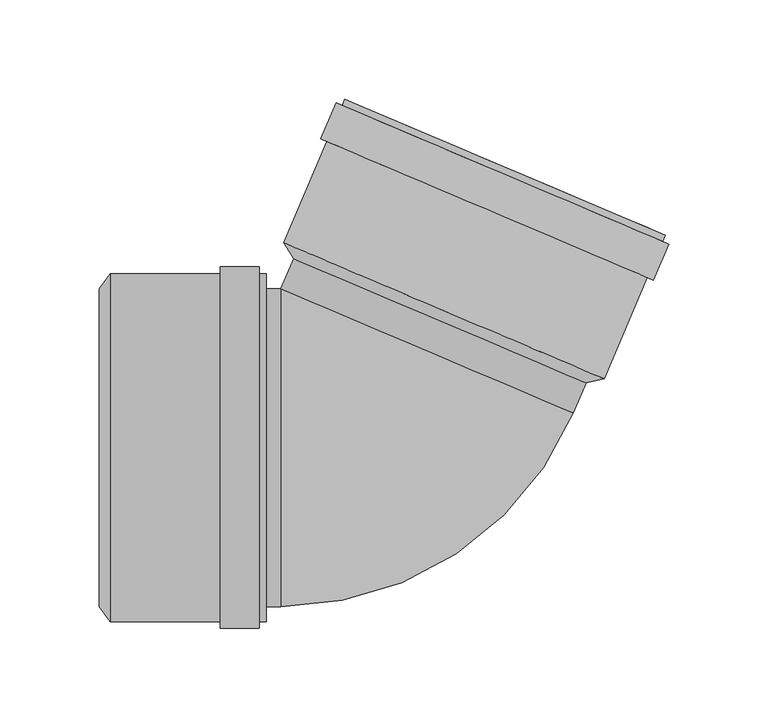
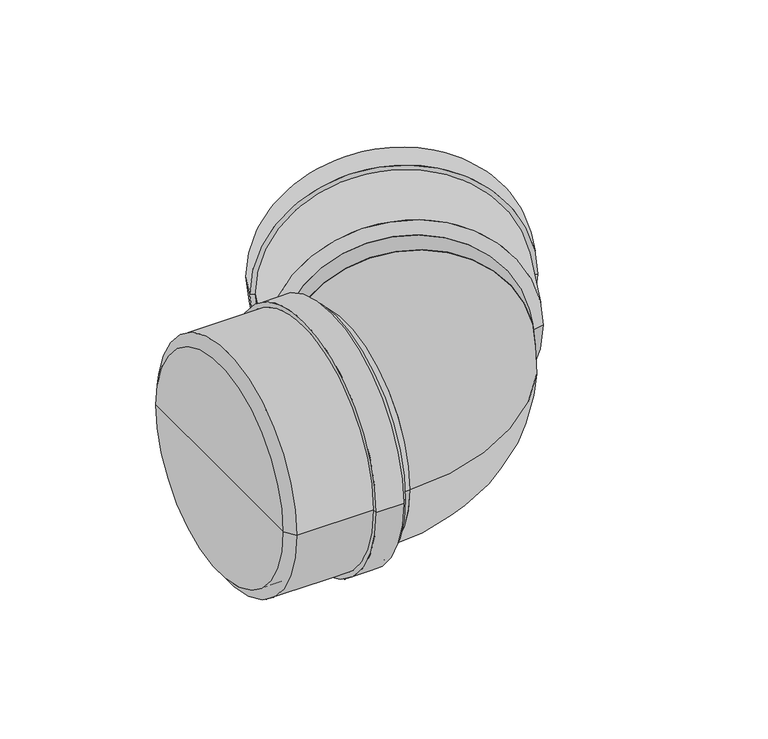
"""IFC4 building model written with IfcOpenShell, lengths in millimetres: pipe fitting geometry, pf_KGB : pf_KGB."""

from ifc_helpers import new_model, si_unit, point, frame, origin, origin_2d, place, context, project, spatial, polyline, circle_curve, ellipse_curve, trimmed, segment, composite_curve, outline, extrude, source, transform, mapped, element, save
from ifc_brep_helpers import plane_surface, cylinder_surface, revolved_surface, advanced_brep


def pipe_fitting_2241b52f(model_context):
    return source(origin(), model_context, "Body", "SolidModel", [
        advanced_brep(
        [(100.7571286, 32.6245466, 0.0), (-46.523648, 95.1415271, 0.0), (-51.4095368, 103.0818099, 0.0), (109.8629136, 34.6257162, 0.0), (27.1167403, 63.8830368, 0.0), (140.5743803, 106.9773977, 0.0), (-20.6980701, 175.4334914, 0.0), (-13.7022332, 172.4639348, 0.0), (133.5785434, 109.9469542, 0.0), (-22.0265559, 172.3037749, 0.0), (139.2458944, 103.8476812, 0.0), (-25.1562724, 173.6322607, 0.0), (142.3756109, 102.5191953, 0.0), (-32.8536756, 155.4983151, 0.0), (134.6782077, 84.3852497, 0.0), (-29.7239591, 154.1698293, 0.0), (131.5484912, 85.7137355, 0.0), (102.8670767, 37.5952728, 0.0), (-44.4136999, 100.1122533, 0.0), (29.2266884, 68.853763, 0.0)],
        [
            (0, 1, circle_curve(frame((27.1167403, 63.8830368, 0.0), z_axis=(0.39073112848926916, 0.9205048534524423, 0.0), x_axis=(-0.9205048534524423, 0.39073112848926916, 0.0)), 80.0)),
            (1, 2),
            (2, 3, circle_curve(frame((29.2266884, 68.853763, 0.0), z_axis=(-0.39073112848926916, -0.9205048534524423, 0.0), x_axis=(-0.9205048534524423, 0.39073112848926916, 0.0)), 87.6)),
            (3, 0),
            (1, 0, circle_curve(frame((27.1167403, 63.8830368, 0.0), z_axis=(0.39073112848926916, 0.9205048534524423, 0.0), x_axis=(-0.9205048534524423, 0.39073112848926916, 0.0)), 80.0)),
            (3, 2, circle_curve(frame((29.2266884, 68.853763, 0.0), z_axis=(-0.39073112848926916, -0.9205048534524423, 0.0), x_axis=(-0.9205048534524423, 0.39073112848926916, 0.0)), 87.6)),
            (4, 1),
            (0, 4),
            (5, 6, circle_curve(frame((59.9381551, 141.2054445, 0.0), z_axis=(0.39073112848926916, 0.9205048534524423, 0.0), x_axis=(-0.9205048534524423, 0.39073112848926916, 0.0)), 87.6)),
            (6, 7),
            (7, 8, circle_curve(frame((59.9381551, 141.2054445, 0.0), z_axis=(-0.39073112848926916, -0.9205048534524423, 0.0), x_axis=(-0.9205048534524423, 0.39073112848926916, 0.0)), 80.0)),
            (8, 5),
            (9, 10, circle_curve(frame((58.6096693, 138.075728, 0.0), z_axis=(0.39073112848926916, 0.9205048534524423, 0.0), x_axis=(-0.9205048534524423, 0.39073112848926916, 0.0)), 87.6)),
            (10, 5),
            (5, 6, circle_curve(frame((59.9381551, 141.2054445, 0.0), z_axis=(-0.39073112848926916, -0.9205048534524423, 0.0), x_axis=(-0.9205048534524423, 0.39073112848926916, 0.0)), 87.6)),
            (6, 9),
            (11, 12, circle_curve(frame((58.6096693, 138.075728, 0.0), z_axis=(0.39073112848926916, 0.9205048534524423, 0.0), x_axis=(-0.9205048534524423, 0.39073112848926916, 0.0)), 91.0)),
            (12, 10),
            (9, 11),
            (13, 14, circle_curve(frame((50.912266, 119.9417824, 0.0), z_axis=(0.39073112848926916, 0.9205048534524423, 0.0), x_axis=(-0.9205048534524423, 0.39073112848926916, 0.0)), 91.0)),
            (14, 12),
            (11, 13),
            (15, 16, circle_curve(frame((50.912266, 119.9417824, 0.0), z_axis=(0.39073112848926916, 0.9205048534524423, 0.0), x_axis=(-0.9205048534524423, 0.39073112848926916, 0.0)), 87.6)),
            (16, 14),
            (13, 15),
            (8, 7, circle_curve(frame((59.9381551, 141.2054445, 0.0), z_axis=(-0.39073112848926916, -0.9205048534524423, 0.0), x_axis=(-0.9205048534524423, 0.39073112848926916, 0.0)), 80.0)),
            (10, 9, circle_curve(frame((58.6096693, 138.075728, 0.0), z_axis=(0.39073112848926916, 0.9205048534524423, 0.0), x_axis=(-0.9205048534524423, 0.39073112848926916, 0.0)), 87.6)),
            (12, 11, circle_curve(frame((58.6096693, 138.075728, 0.0), z_axis=(0.39073112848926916, 0.9205048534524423, 0.0), x_axis=(-0.9205048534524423, 0.39073112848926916, 0.0)), 91.0)),
            (14, 13, circle_curve(frame((50.912266, 119.9417824, 0.0), z_axis=(0.39073112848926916, 0.9205048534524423, 0.0), x_axis=(-0.9205048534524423, 0.39073112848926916, 0.0)), 91.0)),
            (16, 15, circle_curve(frame((50.912266, 119.9417824, 0.0), z_axis=(0.39073112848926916, 0.9205048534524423, 0.0), x_axis=(-0.9205048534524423, 0.39073112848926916, 0.0)), 87.6)),
            (2, 15),
            (16, 3),
            (17, 18, circle_curve(frame((29.2266884, 68.853763, 0.0), z_axis=(0.39073112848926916, 0.9205048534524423, 0.0), x_axis=(-0.9205048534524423, 0.39073112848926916, 0.0)), 80.0)),
            (18, 19),
            (19, 17),
            (18, 17, circle_curve(frame((29.2266884, 68.853763, 0.0), z_axis=(0.39073112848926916, 0.9205048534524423, 0.0), x_axis=(-0.9205048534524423, 0.39073112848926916, 0.0)), 80.0)),
            (7, 18),
            (17, 8),
        ],
        [
            revolved_surface(polyline([(-51.4095368, 103.0818099, 0.0), (-46.523648, 95.1415271, 0.0)]), (27.1167403, 63.8830368, 0.0), (-0.39073112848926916, -0.9205048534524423, 0.0)),
            plane_surface(frame((27.1167403, 63.8830368, 0.0), z_axis=(-0.39073112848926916, -0.9205048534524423, 0.0), x_axis=(-0.9205048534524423, 0.39073112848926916, 0.0))),
            plane_surface(frame((59.9381551, 141.2054445, 0.0), z_axis=(0.39073112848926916, 0.9205048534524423, 0.0), x_axis=(-0.9205048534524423, 0.39073112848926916, 0.0))),
            cylinder_surface(frame((27.1167403, 63.8830368, 0.0), z_axis=(-0.39073112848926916, -0.9205048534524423, 0.0), x_axis=(-0.9205048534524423, 0.39073112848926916, 0.0)), 87.6),
            plane_surface(frame((58.6096693, 138.075728, 0.0), z_axis=(0.39073112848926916, 0.9205048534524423, 0.0), x_axis=(-0.9205048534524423, 0.39073112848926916, 0.0))),
            cylinder_surface(frame((27.1167403, 63.8830368, 0.0), z_axis=(-0.39073112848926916, -0.9205048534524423, 0.0), x_axis=(-0.9205048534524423, 0.39073112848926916, 0.0)), 91.0),
            plane_surface(frame((50.912266, 119.9417824, 0.0), z_axis=(-0.39073112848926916, -0.9205048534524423, 0.0), x_axis=(-0.9205048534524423, 0.39073112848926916, 0.0))),
            plane_surface(frame((29.2266884, 68.853763, 0.0), z_axis=(0.39073112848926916, 0.9205048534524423, 0.0), x_axis=(-0.9205048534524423, 0.39073112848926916, 0.0))),
            revolved_surface(polyline([(-44.413699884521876, 100.11225328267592, 0.0), (-13.702233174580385, 172.46393478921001, 0.0)]), (27.1167403, 63.8830368, 0.0), (-0.39073112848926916, -0.9205048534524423, 0.0)),
        ],
        [
            (0, [[1, 2, 3, 4]]),
            (0, [[5, -4, 6, -2]]),
            (1, [[7, -1, 8]]),
            (1, [[-8, -5, -7]]),
            (2, [[9, 10, 11, 12]]),
            (3, [[13, 14, 15, 16]]),
            (4, [[17, 18, -13, 19]]),
            (5, [[20, 21, -17, 22]]),
            (6, [[23, 24, -20, 25]]),
            (2, [[-15, -12, 26, -10]]),
            (3, [[27, -16, -9, -14]]),
            (4, [[28, -19, -27, -18]]),
            (5, [[29, -22, -28, -21]]),
            (6, [[30, -25, -29, -24]]),
            (3, [[-3, 31, -30, 32]]),
            (3, [[-6, -32, -23, -31]]),
            (7, [[33, 34, 35]]),
            (7, [[36, -35, -34]]),
            (8, [[-11, 37, -33, 38]]),
            (8, [[-26, -38, -36, -37]]),
        ],
    ),
        advanced_brep(
        [(-144.4, -80.0, 0.0), (-144.4, 80.0, 0.0), (-139.0, 87.6, 0.0), (-139.0, -87.6, 0.0), (-144.4, 0.0, 0.0), (-60.4, -87.6, 0.0), (-60.4, 87.6, 0.0), (-60.4, 80.0, 0.0), (-60.4, -80.0, 0.0), (-63.8, 87.6, 0.0), (-63.8, -87.6, 0.0), (-63.8, 91.0, 0.0), (-63.8, -91.0, 0.0), (-83.5, 91.0, 0.0), (-83.5, -91.0, 0.0), (-83.5, 87.6, 0.0), (-83.5, -87.6, 0.0), (-139.0, -80.0, 0.0), (-139.0, 80.0, 0.0), (-139.0, 0.0, 0.0)],
        [
            (0, 1, circle_curve(frame((-144.4, 0.0, 0.0), z_axis=(1.0, 0.0, 0.0), x_axis=(0.0, 1.0, 0.0)), 80.0)),
            (1, 2),
            (2, 3, circle_curve(frame((-139.0, 0.0, 0.0), z_axis=(-1.0, 0.0, 0.0), x_axis=(0.0, 1.0, 0.0)), 87.6)),
            (3, 0),
            (1, 0, circle_curve(frame((-144.4, 0.0, 0.0), z_axis=(1.0, 0.0, 0.0), x_axis=(0.0, 1.0, 0.0)), 80.0)),
            (3, 2, circle_curve(frame((-139.0, 0.0, 0.0), z_axis=(-1.0, 0.0, 0.0), x_axis=(0.0, 1.0, 0.0)), 87.6)),
            (4, 1),
            (0, 4),
            (5, 6, circle_curve(frame((-60.4, 0.0, 0.0), z_axis=(1.0, 0.0, 0.0), x_axis=(0.0, 1.0, 0.0)), 87.6)),
            (6, 7),
            (7, 8, circle_curve(frame((-60.4, 0.0, 0.0), z_axis=(-1.0, 0.0, 0.0), x_axis=(0.0, 1.0, 0.0)), 80.0)),
            (8, 5),
            (9, 10, circle_curve(frame((-63.8, 0.0, 0.0), z_axis=(1.0, 0.0, 0.0), x_axis=(0.0, 1.0, 0.0)), 87.6)),
            (10, 5),
            (5, 6, circle_curve(frame((-60.4, 0.0, 0.0), z_axis=(-1.0, 0.0, 0.0), x_axis=(0.0, 1.0, 0.0)), 87.6)),
            (6, 9),
            (11, 12, circle_curve(frame((-63.8, 0.0, 0.0), z_axis=(1.0, 0.0, 0.0), x_axis=(0.0, 1.0, 0.0)), 91.0)),
            (12, 10),
            (9, 11),
            (13, 14, circle_curve(frame((-83.5, 0.0, 0.0), z_axis=(1.0, 0.0, 0.0), x_axis=(0.0, 1.0, 0.0)), 91.0)),
            (14, 12),
            (11, 13),
            (15, 16, circle_curve(frame((-83.5, 0.0, 0.0), z_axis=(1.0, 0.0, 0.0), x_axis=(0.0, 1.0, 0.0)), 87.6)),
            (16, 14),
            (13, 15),
            (8, 7, circle_curve(frame((-60.4, 0.0, 0.0), z_axis=(-1.0, 0.0, 0.0), x_axis=(0.0, 1.0, 0.0)), 80.0)),
            (10, 9, circle_curve(frame((-63.8, 0.0, 0.0), z_axis=(1.0, 0.0, 0.0), x_axis=(0.0, 1.0, 0.0)), 87.6)),
            (12, 11, circle_curve(frame((-63.8, 0.0, 0.0), z_axis=(1.0, 0.0, 0.0), x_axis=(0.0, 1.0, 0.0)), 91.0)),
            (14, 13, circle_curve(frame((-83.5, 0.0, 0.0), z_axis=(1.0, 0.0, 0.0), x_axis=(0.0, 1.0, 0.0)), 91.0)),
            (16, 15, circle_curve(frame((-83.5, 0.0, 0.0), z_axis=(1.0, 0.0, 0.0), x_axis=(0.0, 1.0, 0.0)), 87.6)),
            (2, 15),
            (16, 3),
            (17, 18, circle_curve(frame((-139.0, 0.0, 0.0), z_axis=(1.0, 0.0, 0.0), x_axis=(0.0, 1.0, 0.0)), 80.0)),
            (18, 19),
            (19, 17),
            (18, 17, circle_curve(frame((-139.0, 0.0, 0.0), z_axis=(1.0, 0.0, 0.0), x_axis=(0.0, 1.0, 0.0)), 80.0)),
            (7, 18),
            (17, 8),
        ],
        [
            revolved_surface(polyline([(-139.0, 87.6, 0.0), (-144.4, 80.0, 0.0)]), (-144.4, 0.0, 0.0), (-1.0, 0.0, 0.0)),
            plane_surface(frame((-144.4, 0.0, 0.0), z_axis=(-1.0, 0.0, 0.0), x_axis=(0.0, 1.0, 0.0))),
            plane_surface(frame((-60.4, 0.0, 0.0), z_axis=(1.0, 0.0, 0.0), x_axis=(0.0, 1.0, 0.0))),
            cylinder_surface(frame((-144.4, 0.0, 0.0), z_axis=(-1.0, 0.0, 0.0), x_axis=(0.0, 1.0, 0.0)), 87.6),
            plane_surface(frame((-63.8, 0.0, 0.0), z_axis=(1.0, 0.0, 0.0), x_axis=(0.0, 1.0, 0.0))),
            cylinder_surface(frame((-144.4, 0.0, 0.0), z_axis=(-1.0, 0.0, 0.0), x_axis=(0.0, 1.0, 0.0)), 91.0),
            plane_surface(frame((-83.5, 0.0, 0.0), z_axis=(-1.0, 0.0, 0.0), x_axis=(0.0, 1.0, 0.0))),
            plane_surface(frame((-139.0, 0.0, 0.0), z_axis=(1.0, 0.0, 0.0), x_axis=(0.0, 1.0, 0.0))),
            revolved_surface(polyline([(-139.0, 80.0, 0.0), (-60.400000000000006, 80.0, 0.0)]), (-144.4, 0.0, 0.0), (-1.0, 0.0, 0.0)),
        ],
        [
            (0, [[1, 2, 3, 4]]),
            (0, [[5, -4, 6, -2]]),
            (1, [[7, -1, 8]]),
            (1, [[-8, -5, -7]]),
            (2, [[9, 10, 11, 12]]),
            (3, [[13, 14, 15, 16]]),
            (4, [[17, 18, -13, 19]]),
            (5, [[20, 21, -17, 22]]),
            (6, [[23, 24, -20, 25]]),
            (2, [[-15, -12, 26, -10]]),
            (3, [[27, -16, -9, -14]]),
            (4, [[28, -19, -27, -18]]),
            (5, [[29, -22, -28, -21]]),
            (6, [[30, -25, -29, -24]]),
            (3, [[-3, 31, -30, 32]]),
            (3, [[-6, -32, -23, -31]]),
            (7, [[33, 34, 35]]),
            (7, [[36, -35, -34]]),
            (8, [[-11, 37, -33, 38]]),
            (8, [[-26, -38, -36, -37]]),
        ],
    ),
        extrude(outline(composite_curve([segment(trimmed(circle_curve(origin_2d(), 80.0), [point((0.0, -80.0))], [point((0.0, 80.0))], False, "CARTESIAN"), True, "CONTINUOUS"), segment(trimmed(circle_curve(origin_2d(), 80.0), [point((0.0, 80.0))], [point((0.0, -80.0))], False, "CARTESIAN"), True, "CONTINUOUS")], self_intersect=False)), frame((20.6895434, 48.7415097, 0.0), z_axis=(0.39073112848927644, 0.9205048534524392, 0.0), x_axis=(0.0, 0.0, 1.0)), (0.0, 0.0, 1.0), 16.4491551),
        extrude(outline(composite_curve([segment(trimmed(circle_curve(origin_2d(), 80.0), [point((-80.0, 0.0))], [point((80.0, 0.0))], False, "CARTESIAN"), True, "CONTINUOUS"), segment(trimmed(circle_curve(origin_2d(), 80.0), [point((80.0, 0.0))], [point((-80.0, 0.0))], False, "CARTESIAN"), True, "CONTINUOUS")], self_intersect=False)), frame((-139.0, 0.0, 0.0), z_axis=(1.0, 0.0, 0.0), x_axis=(0.0, 1.0, 0.0)), (0.0, 0.0, 1.0), 86.0491551),
        advanced_brep(
        [(-52.9508449, -80.0, 0.0), (-52.9508449, 80.0, 0.0), (94.3299317, 17.4830194, 0.0)],
        [
            (0, 1, circle_curve(frame((-52.9508449, 0.0, 0.0), z_axis=(-1.0, 0.0, 0.0), x_axis=(0.0, 1.0, 0.0)), 80.0)),
            (1, 0, circle_curve(frame((-52.9508449, 0.0, 0.0), z_axis=(-1.0, 0.0, 0.0), x_axis=(0.0, 1.0, 0.0)), 80.0)),
            (2, 1, circle_curve(frame((20.6895434, 48.7415097, 0.0), z_axis=(0.39073112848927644, 0.9205048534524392, 0.0), x_axis=(-0.9205048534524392, 0.39073112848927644, 0.0)), 80.0)),
            (1, 2, circle_curve(frame((20.6895434, 48.7415097, 0.0), z_axis=(0.39073112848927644, 0.9205048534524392, 0.0), x_axis=(-0.9205048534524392, 0.39073112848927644, 0.0)), 80.0)),
            (2, 0, circle_curve(frame((-52.9508449, 80.0, 0.0), z_axis=(0.0, 0.0, -1.0), x_axis=(0.0, -1.0, 0.0)), 160.0)),
        ],
        [
            plane_surface(frame((-52.9508449, 80.0, -14.8), z_axis=(-1.0, 0.0, 0.0), x_axis=(0.0, -1.0, 0.0))),
            plane_surface(frame((-52.9508449, 80.0, -14.8), z_axis=(0.39073112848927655, 0.9205048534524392, 0.0), x_axis=(0.9205048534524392, -0.39073112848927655, 0.0))),
            revolved_surface(trimmed(ellipse_curve(frame((-52.9508449, 0.0, 0.0), z_axis=(1.0, 0.0, 0.0), x_axis=(0.0, 1.0, 0.0)), 80.0, 80.0), [point((-52.9508449, -80.0, 0.0))], [point((-52.9508449, 80.0, 0.0))], True, "CARTESIAN"), (-52.9508449, 80.0, -14.8), (0.0, 0.0, -1.0)),
            revolved_surface(trimmed(ellipse_curve(frame((-52.9508449, 0.0, 0.0), z_axis=(1.0, 0.0, 0.0), x_axis=(0.0, 1.0, 0.0)), 80.0, 80.0), [point((-52.9508449, 80.0, 0.0))], [point((-52.9508449, -80.0, 0.0))], True, "CARTESIAN"), (-52.9508449, 80.0, -14.8), (0.0, 0.0, -1.0)),
        ],
        [
            (0, [[1, 2]]),
            (1, [[3, 4]]),
            (2, [[5, -2, -3]]),
            (3, [[-1, -5, -4]]),
        ],
    ),
    ])


if __name__ == "__main__":
    model = new_model("IFC4")
    model_context = context("Model", 3, world=origin())
    ifc_project = project(units=[si_unit("LENGTHUNIT", "METRE", prefix="MILLI")], contexts=[model_context])
    site = spatial("IfcSite", under=ifc_project)
    building = spatial("IfcBuilding", under=site)
    placement = place(None, origin())
    pipe_fitting_shape = pipe_fitting_2241b52f(model_context)
    element("IfcPipeFitting", 1, ObjectType="pf_KGB : pf_KGB", at=placement, inside=building, context=model_context, shape_type="MappedRepresentation", body=[
        mapped(pipe_fitting_shape, transform((0.0, 0.0, 0.0), x_axis=(1.0, 0.0, 0.0), y_axis=(0.0, 1.0, 0.0), z_axis=(0.0, 0.0, 1.0))),
    ])
    save(model, "model.ifc")
